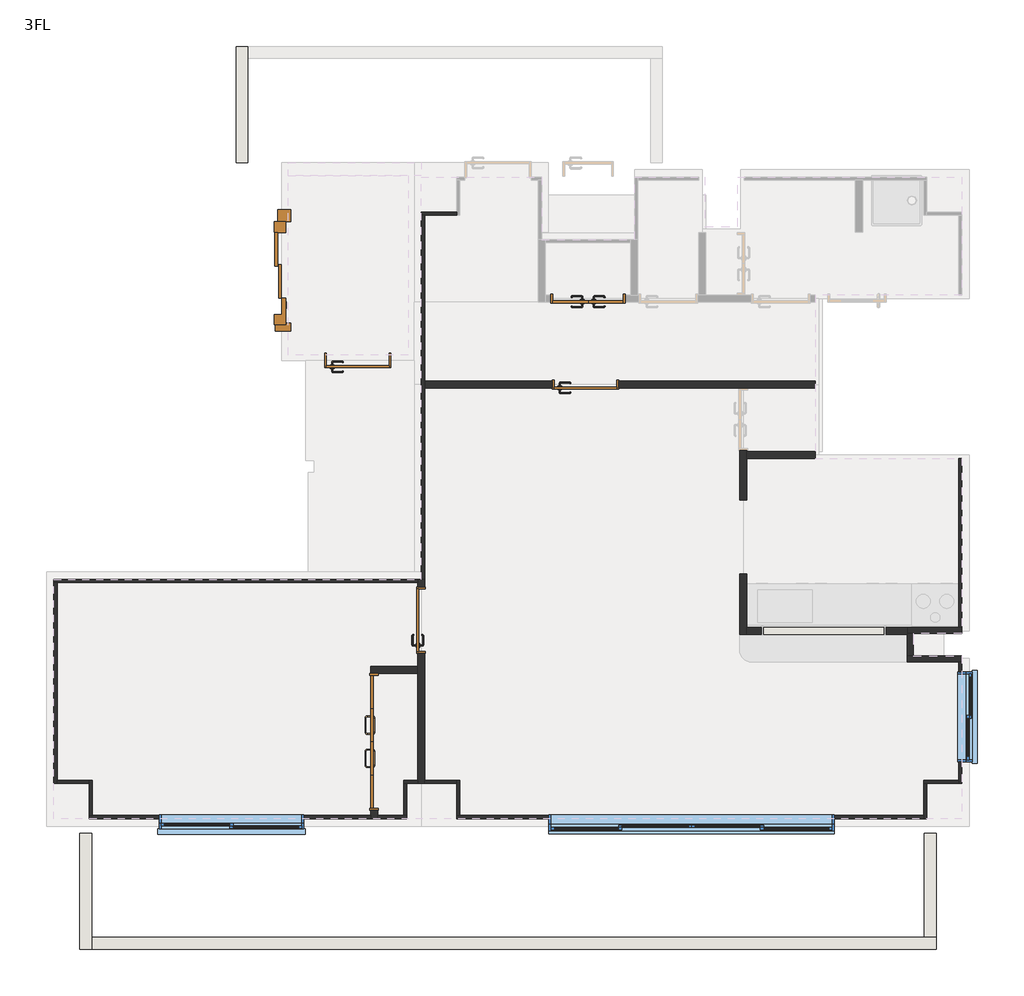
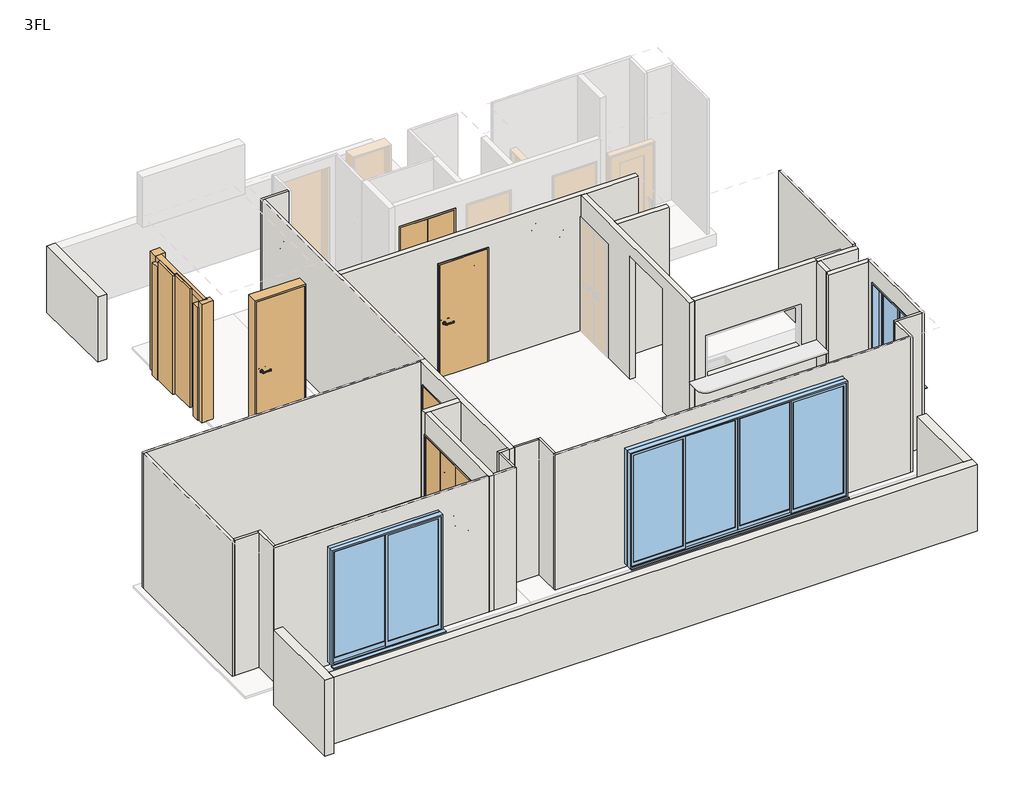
# One storey, part 1 of 2: 31 walls, 6 doors, 3 windows.
"""IFC4 building model written with IfcOpenShell, lengths in millimetres."""

from ifc_helpers import new_model, si_unit, frame, origin, place, context, project, spatial, polyline, outline, extrude, faceted_brep, transform, mapped, element, save
from components import door_6b3f1a68, w750h2000_bb28a540, w900h2000_3836acd8, w1700h2000_548ce087, w800h2000_55112f04, w800h2000_ceb0a9b1, w800h2200_4894828d, w1100h1200_8d7c9efa, w1800h2000_a859420f, w3600_h2000_fd93b6f9

model = new_model("IFC4")

# Units and contexts
model_context = context("Model", 3, world=origin())
ifc_project = project(units=[si_unit("LENGTHUNIT", "METRE", prefix="MILLI")], contexts=[model_context])

# Site, building, storey
site = spatial("IfcSite", under=ifc_project)
building = spatial("IfcBuilding", under=site)
storey = spatial("IfcBuildingStorey", under=building, Name="3FL", Elevation=6275.0)

# Doors
placement = place(None, origin())
door_shape = door_6b3f1a68(model_context)
element("IfcDoor", 1, ObjectType="エレベータ住宅用ドア - トランク付 : 9 人乗", at=placement, inside=storey, context=model_context, shape_type="MappedRepresentation", body=[
    mapped(door_shape, transform((-699.2658988, 2143.6001516, 6275.0), x_axis=(0.0, 1.0, 0.0), y_axis=(-1.0, 0.0, 0.0), z_axis=(0.0, 0.0, 1.0))),
])
w750h2000_shape = w750h2000_bb28a540(model_context)
w900h2000_shape = w900h2000_3836acd8(model_context)
element("IfcDoor", 2, ObjectType="両開き : W900H2000", at=placement, inside=storey, context=model_context, shape_type="MappedRepresentation", body=[
    mapped(w750h2000_shape, transform((3218.2341012, 1823.6001516, 6275.0), x_axis=(-1.0, 0.0, 0.0), y_axis=(0.0, -1.0, 0.0), z_axis=(0.0, 0.0, 1.0))),
    mapped(w900h2000_shape, transform((3218.2341012, 1823.6001516, 6275.0), x_axis=(-1.0, 0.0, 0.0), y_axis=(0.0, -1.0, 0.0), z_axis=(0.0, 0.0, 1.0))),
])
w1700h2000_shape = w1700h2000_548ce087(model_context)
element("IfcDoor", 3, ObjectType="木製折戸 : w1700h2000", at=placement, inside=storey, context=model_context, shape_type="MappedRepresentation", body=[
    mapped(w1700h2000_shape, transform((483.2341012, -3846.3998484, 6275.0), x_axis=(0.0, 1.0, 0.0), y_axis=(-1.0, 0.0, 0.0), z_axis=(0.0, 0.0, 1.0))),
])
w800h2000_shape = w800h2000_55112f04(model_context)
element("IfcDoor", 4, ObjectType="片開き : w800h2000", at=placement, inside=storey, context=model_context, shape_type="MappedRepresentation", body=[
    mapped(w800h2000_shape, transform((3183.2341012, 723.6001516, 6275.0), x_axis=(1.0, 0.0, 0.0), y_axis=(0.0, 1.0, 0.0), z_axis=(0.0, 0.0, 1.0))),
])
w800h2000_2_shape = w800h2000_ceb0a9b1(model_context)
element("IfcDoor", 5, ObjectType="片開き : w800h2000", at=placement, inside=storey, context=model_context, shape_type="MappedRepresentation", body=[
    mapped(w800h2000_2_shape, transform((1083.2341012, -2291.3998484, 6275.0), x_axis=(0.0, 1.0, 0.0), y_axis=(-1.0, 0.0, 0.0), z_axis=(0.0, 0.0, 1.0))),
])
w800h2200_shape = w800h2200_4894828d(model_context)
element("IfcDoor", 6, ObjectType="片開き : w800h2200", at=placement, inside=storey, context=model_context, shape_type="MappedRepresentation", body=[
    mapped(w800h2200_shape, transform((273.2341012, 1031.1001516, 6275.0), x_axis=(1.0, 0.0, 0.0), y_axis=(0.0, 1.0, 0.0), z_axis=(0.0, 0.0, 1.0))),
])

# Walls
element("IfcWall", 7, ObjectType="標準-120mm+15mm+15mm", at=placement, inside=storey, context=model_context, shape_type="Brep", body=[
    faceted_brep([(-1281.7658988, 3563.6001516, 7375.0), (-1281.7658988, 5048.6001516, 7375.0), (-1281.7658988, 5048.6001516, 6195.0), (-1281.7658988, 3563.6001516, 6225.0), (-1131.7658988, 5048.6001516, 7375.0), (-1131.7658988, 4898.6001516, 7375.0), (-1131.7658988, 3563.6001516, 7375.0), (-1131.7658988, 3563.6001516, 6225.0), (-1131.7658988, 4898.6001516, 6198.030303), (-1131.7658988, 5048.6001516, 6195.0)], [[[0, 1, 2, 3]], [[4, 5, 6, 7, 8, 9]], [[1, 0, 6, 5, 4]], [[1, 4, 9, 2]], [[6, 0, 3, 7]], [[3, 2, 9, 8, 7]]]),
])
element("IfcWall", 8, ObjectType="標準-120mm+15mm+15mm", at=placement, inside=storey, context=model_context, shape_type="Brep", body=[
    faceted_brep([(-3281.7658988, -5016.3998484, 7375.0), (-3281.7658988, -5016.3998484, 6030.0), (-3281.7658988, -6501.3998484, 6030.0), (-3281.7658988, -6501.3998484, 7375.0), (-3131.7658988, -5016.3998484, 6030.0), (-3131.7658988, -5016.3998484, 7375.0), (-3131.7658988, -6351.3998484, 7375.0), (-3131.7658988, -6501.3998484, 7375.0), (-3131.7658988, -6501.3998484, 6030.0), (-3131.7658988, -6351.3998484, 6030.0)], [[[0, 1, 2, 3]], [[4, 5, 6, 7, 8, 9]], [[2, 1, 4, 9, 8]], [[0, 3, 7, 6, 5]], [[3, 2, 8, 7]], [[0, 5, 4, 1]]]),
])
element("IfcWall", 9, ObjectType="標準-120mm+15mm+15mm", at=placement, inside=storey, context=model_context, shape_type="Brep", body=[
    faceted_brep([(7668.2341012, -6501.3998484, 7375.0), (-3131.7658988, -6501.3998484, 7375.0), (-3131.7658988, -6501.3998484, 6195.0), (7668.2341012, -6501.3998484, 6195.0), (-3131.7658988, -6351.3998484, 7375.0), (7518.2341012, -6351.3998484, 7375.0), (7668.2341012, -6351.3998484, 7375.0), (7668.2341012, -6351.3998484, 6198.030303), (-3131.7658988, -6351.3998484, 6198.030303)], [[[0, 1, 2, 3]], [[4, 5, 6, 7, 8]], [[1, 0, 6, 5, 4]], [[1, 4, 8, 2]], [[6, 0, 3, 7]], [[3, 2, 8, 7]]]),
])
element("IfcWall", 10, ObjectType="標準-120mm+15mm+15mm", at=placement, inside=storey, context=model_context, shape_type="SweptSolid", body=[
    extrude(outline(polyline([(-6351.3998484, 7375.0), (-5016.3998484, 7375.0), (-5016.3998484, 6225.0), (-6351.3998484, 6198.030303), (-6351.3998484, 7375.0)])), frame((7518.2341012, 0.0, 0.0), z_axis=(1.0, 0.0, 0.0), x_axis=(0.0, 1.0, 0.0)), (0.0, 0.0, 1.0), 150.0),
])
element("IfcWall", 11, ObjectType="標準\u300065ｍｍ+12.5mm", at=placement, inside=storey, context=model_context, shape_type="Brep", body=[
    faceted_brep([(7998.2341012, -2748.8998484, 6240.0), (7375.7341012, -2748.8998484, 6240.0), (7298.2341012, -2748.8998484, 6240.0), (7298.2341012, -2748.8998484, 8640.0), (7375.7341012, -2748.8998484, 8640.0), (7998.2341012, -2748.8998484, 8640.0), (7998.2341012, -2826.3998484, 6240.0), (7998.2341012, -2826.3998484, 6275.0), (7998.2341012, -2826.3998484, 8640.0), (7298.2341012, -2826.3998484, 8640.0), (7298.2341012, -2826.3998484, 6240.0)], [[[0, 1, 2, 3, 4, 5]], [[6, 7, 8, 9, 10]], [[2, 1, 0, 6, 10]], [[5, 4, 3, 9, 8]], [[0, 5, 8, 7, 6]], [[3, 2, 10, 9]]]),
])
element("IfcWall", 12, ObjectType="標準\u300065ｍｍ+12.5mm", at=placement, inside=storey, context=model_context, shape_type="SweptSolid", body=[
    extrude(outline(polyline([(7375.7341012, -2458.8998484), (7375.7341012, -2748.8998484), (7298.2341012, -2748.8998484), (7298.2341012, -2458.8998484), (7375.7341012, -2458.8998484)])), frame((0.0, 0.0, 6240.0), z_axis=(0.0, 0.0, 1.0), x_axis=(1.0, 0.0, 0.0)), (0.0, 0.0, 1.0), 2400.0),
])
element("IfcWall", 13, ObjectType="標準-12.5mm+65ｍｍ+12.5mm", at=placement, inside=storey, context=model_context, shape_type="Brep", body=[
    faceted_brep([(5248.2341012, -2471.3998484, 6275.0), (7298.2341012, -2471.3998484, 6275.0), (7298.2341012, -2471.3998484, 8675.0), (5248.2341012, -2471.3998484, 8675.0), (7033.2341012, -2471.3998484, 8000.0), (7033.2341012, -2471.3998484, 7275.0), (5433.2341012, -2471.3998484, 7275.0), (5433.2341012, -2471.3998484, 8000.0), (5248.2341012, -2381.3998484, 6275.0), (5248.2341012, -2381.3998484, 8675.0), (7298.2341012, -2381.3998484, 8675.0), (7298.2341012, -2381.3998484, 8640.0), (7298.2341012, -2381.3998484, 6275.0), (7033.2341012, -2381.3998484, 8000.0), (5433.2341012, -2381.3998484, 8000.0), (5433.2341012, -2381.3998484, 7275.0), (7033.2341012, -2381.3998484, 7275.0)], [[[0, 1, 2, 3], [4, 5, 6, 7]], [[8, 9, 10, 11, 12], [13, 14, 15, 16]], [[1, 0, 8, 12]], [[3, 2, 10, 9]], [[0, 3, 9, 8]], [[2, 1, 12, 11, 10]], [[5, 4, 13, 16]], [[6, 5, 16, 15]], [[7, 6, 15, 14]], [[4, 7, 14, 13]]]),
])
element("IfcWall", 14, ObjectType="標準-12.5mm+65ｍｍ+12.5mm", at=placement, inside=storey, context=model_context, shape_type="Brep", body=[
    faceted_brep([(1128.2341012, -1771.3998484, 6275.0), (1128.2341012, -1771.3998484, 8675.0), (1128.2341012, -4341.3998484, 8675.0), (1128.2341012, -4381.3998484, 8675.0), (1128.2341012, -4381.3998484, 6275.0), (1128.2341012, -4341.3998484, 6275.0), (1128.2341012, -2716.3998484, 6275.0), (1128.2341012, -2716.3998484, 8300.0), (1128.2341012, -1866.3998484, 8300.0), (1128.2341012, -1866.3998484, 6275.0), (1038.2341012, -1771.3998484, 8675.0), (1038.2341012, -1771.3998484, 6275.0), (1038.2341012, -1811.3998484, 6275.0), (1038.2341012, -1866.3998484, 6275.0), (1038.2341012, -1866.3998484, 8300.0), (1038.2341012, -2716.3998484, 8300.0), (1038.2341012, -2716.3998484, 6275.0), (1038.2341012, -2881.3998484, 6275.0), (1038.2341012, -2971.3998484, 6275.0), (1038.2341012, -4341.3998484, 6275.0), (1038.2341012, -4381.3998484, 6275.0), (1038.2341012, -4381.3998484, 8675.0), (1038.2341012, -4341.3998484, 8675.0), (1038.2341012, -2971.3998484, 8675.0), (1038.2341012, -2881.3998484, 8675.0), (1038.2341012, -1811.3998484, 8675.0), (1088.2341012, -1771.3998484, 6275.0), (1115.7341012, -1771.3998484, 6275.0), (1088.2341012, -1771.3998484, 8675.0)], [[[0, 1, 2, 3, 4, 5, 6, 7, 8, 9]], [[10, 11, 12, 13, 14, 15, 16, 17, 18, 19, 20, 21, 22, 23, 24, 25]], [[4, 20, 19, 18, 17, 16, 6, 5]], [[11, 26, 27, 0, 9, 13, 12]], [[1, 0, 27, 26, 11, 10, 28]], [[3, 2, 1, 28, 10, 25, 24, 23, 22, 21]], [[4, 3, 21, 20]], [[15, 7, 6, 16]], [[7, 15, 14, 8]], [[8, 14, 13, 9]]]),
])
element("IfcWall", 15, ObjectType="標準-12.5mm+65ｍｍ+12.5mm", at=placement, inside=storey, context=model_context, shape_type="Brep", body=[
    faceted_brep([(1038.2341012, -2881.3998484, 6275.0), (438.2341012, -2881.3998484, 6275.0), (438.2341012, -2881.3998484, 8675.0), (1038.2341012, -2881.3998484, 8675.0), (1038.2341012, -2971.3998484, 6275.0), (1038.2341012, -2971.3998484, 8675.0), (528.2341012, -2971.3998484, 8675.0), (438.2341012, -2971.3998484, 8675.0), (438.2341012, -2971.3998484, 8300.0), (438.2341012, -2971.3998484, 6275.0)], [[[0, 1, 2, 3]], [[4, 5, 6, 7, 8, 9]], [[1, 0, 4, 9]], [[3, 2, 7, 6, 5]], [[0, 3, 5, 4]], [[2, 1, 9, 8, 7]]]),
])
element("IfcWall", 16, ObjectType="標準-12.5mm+65ｍｍ+12.5mm", at=placement, inside=storey, context=model_context, shape_type="Brep", body=[
    faceted_brep([(438.2341012, -4831.3998484, 6275.0), (438.2341012, -4831.3998484, 8675.0), (438.2341012, -4791.3998484, 8675.0), (438.2341012, -2971.3998484, 8675.0), (438.2341012, -2971.3998484, 8300.0), (438.2341012, -4721.3998484, 8300.0), (438.2341012, -4721.3998484, 6275.0), (438.2341012, -4791.3998484, 6275.0), (528.2341012, -4831.3998484, 8675.0), (528.2341012, -4831.3998484, 6275.0), (528.2341012, -4791.3998484, 6275.0), (528.2341012, -4721.3998484, 6275.0), (528.2341012, -4721.3998484, 8300.0), (528.2341012, -2971.3998484, 8300.0), (528.2341012, -2971.3998484, 8675.0), (528.2341012, -4791.3998484, 8675.0)], [[[0, 1, 2, 3, 4, 5, 6, 7]], [[8, 9, 10, 11, 12, 13, 14, 15]], [[9, 0, 7, 6, 11, 10]], [[1, 0, 9, 8]], [[3, 2, 1, 8, 15, 14]], [[3, 14, 13, 4]], [[5, 12, 11, 6]], [[12, 5, 4, 13]]]),
])
element("IfcWall", 17, ObjectType="標準-12.5mm+65ｍｍ+12.5mm", at=placement, inside=storey, context=model_context, shape_type="Brep", body=[
    faceted_brep([(5248.2341012, -221.3998484, 6275.0), (6123.2341012, -221.3998484, 6275.0), (6123.2341012, -221.3998484, 8675.0), (5248.2341012, -221.3998484, 8675.0), (5248.2341012, -131.3998484, 6275.0), (5248.2341012, -131.3998484, 8675.0), (6123.2341012, -131.3998484, 8675.0), (6123.2341012, -131.3998484, 6275.0), (6123.2341012, -176.3998484, 6275.0)], [[[0, 1, 2, 3]], [[4, 5, 6, 7]], [[1, 0, 4, 7, 8]], [[3, 2, 6, 5]], [[0, 3, 5, 4]], [[2, 1, 8, 7, 6]]]),
])
element("IfcWall", 18, ObjectType="標準-12.5mm+65ｍｍ+12.5mm", at=placement, inside=storey, context=model_context, shape_type="Brep", body=[
    faceted_brep([(6123.2341012, 768.6001516, 8675.0), (6123.2341012, 768.6001516, 6275.0), (3608.2341012, 768.6001516, 6275.0), (3608.2341012, 768.6001516, 8300.0), (2758.2341012, 768.6001516, 8300.0), (2758.2341012, 768.6001516, 6275.0), (1128.2341012, 768.6001516, 6275.0), (1128.2341012, 768.6001516, 8675.0), (6123.2341012, 678.6001516, 6275.0), (6123.2341012, 678.6001516, 8675.0), (5248.2341012, 678.6001516, 8675.0), (5158.2341012, 678.6001516, 8675.0), (1128.2341012, 678.6001516, 8675.0), (1128.2341012, 678.6001516, 6275.0), (2758.2341012, 678.6001516, 6275.0), (2758.2341012, 678.6001516, 8300.0), (3608.2341012, 678.6001516, 8300.0), (3608.2341012, 678.6001516, 6275.0), (6123.2341012, 723.6001516, 6275.0)], [[[0, 1, 2, 3, 4, 5, 6, 7]], [[8, 9, 10, 11, 12, 13, 14, 15, 16, 17]], [[1, 18, 8, 17, 2]], [[5, 14, 13, 6]], [[9, 0, 7, 12, 11, 10]], [[1, 0, 9, 8, 18]], [[7, 6, 13, 12]], [[16, 3, 2, 17]], [[4, 15, 14, 5]], [[3, 16, 15, 4]]]),
])
element("IfcWall", 19, ObjectType="標準-12.5mm+65ｍｍ+12.5mm", at=placement, inside=storey, context=model_context, shape_type="Brep", body=[
    faceted_brep([(5158.2341012, -2471.3998484, 8675.0), (5158.2341012, 678.6001516, 8675.0), (5158.2341012, 678.6001516, 8300.0), (5158.2341012, -121.3998484, 8300.0), (5158.2341012, -121.3998484, 6275.0), (5158.2341012, -751.3998484, 6275.0), (5158.2341012, -751.3998484, 8465.0), (5158.2341012, -1701.3998484, 8465.0), (5158.2341012, -1701.3998484, 6275.0), (5158.2341012, -2471.3998484, 6275.0), (5248.2341012, 678.6001516, 8675.0), (5248.2341012, -131.3998484, 8675.0), (5248.2341012, -221.3998484, 8675.0), (5248.2341012, -2381.3998484, 8675.0), (5248.2341012, -2471.3998484, 8675.0), (5248.2341012, -2471.3998484, 6275.0), (5248.2341012, -2381.3998484, 6275.0), (5248.2341012, -1701.3998484, 6275.0), (5248.2341012, -1701.3998484, 8465.0), (5248.2341012, -751.3998484, 8465.0), (5248.2341012, -751.3998484, 6275.0), (5248.2341012, -221.3998484, 6275.0), (5248.2341012, -131.3998484, 6275.0), (5248.2341012, -121.3998484, 6275.0), (5248.2341012, -121.3998484, 8300.0), (5248.2341012, 678.6001516, 8300.0)], [[[0, 1, 2, 3, 4, 5, 6, 7, 8, 9]], [[10, 11, 12, 13, 14, 15, 16, 17, 18, 19, 20, 21, 22, 23, 24, 25]], [[15, 9, 8, 17, 16]], [[4, 23, 22, 21, 20, 5]], [[1, 0, 14, 13, 12, 11, 10]], [[0, 9, 15, 14]], [[1, 10, 25, 2]], [[3, 24, 23, 4]], [[24, 3, 2, 25]], [[7, 18, 17, 8]], [[19, 6, 5, 20]], [[18, 7, 6, 19]]]),
])
element("IfcWall", 20, ObjectType="標準\u300065ｍｍ+12.5mm", at=placement, inside=storey, context=model_context, shape_type="Brep", body=[
    faceted_brep([(7298.2341012, -2458.8998484, 8640.0), (7298.2341012, -2458.8998484, 6240.0), (7375.7341012, -2458.8998484, 6240.0), (7998.2341012, -2458.8998484, 6240.0), (7998.2341012, -2458.8998484, 8640.0), (7375.7341012, -2458.8998484, 8640.0), (7298.2341012, -2381.3998484, 6240.0), (7298.2341012, -2381.3998484, 6275.0), (7298.2341012, -2381.3998484, 8640.0), (7998.2341012, -2381.3998484, 8640.0), (7998.2341012, -2381.3998484, 6275.0), (7998.2341012, -2381.3998484, 6240.0)], [[[0, 1, 2, 3, 4, 5]], [[6, 7, 8, 9, 10, 11]], [[3, 2, 1, 6, 11]], [[4, 3, 11, 10, 9]], [[0, 5, 4, 9, 8]], [[0, 8, 7, 6, 1]]]),
])
element("IfcWall", 21, ObjectType="内壁-27.5mm+12.5", at=placement, inside=storey, context=model_context, shape_type="Brep", body=[
    faceted_brep([(-3611.7658988, -1811.3998484, 6275.0), (-3571.7658988, -1811.3998484, 6275.0), (1038.2341012, -1811.3998484, 6275.0), (1038.2341012, -1811.3998484, 8675.0), (-3571.7658988, -1811.3998484, 8675.0), (-3611.7658988, -1811.3998484, 8675.0), (-3611.7658988, -1771.3998484, 6275.0), (-3611.7658988, -1771.3998484, 8675.0), (1038.2341012, -1771.3998484, 8675.0), (1038.2341012, -1771.3998484, 6275.0), (-3611.7658988, -1798.8998484, 6275.0), (1038.2341012, -1798.8998484, 6275.0)], [[[0, 1, 2, 3, 4, 5]], [[6, 7, 8, 9]], [[5, 4, 3, 8, 7]], [[2, 1, 0, 10, 11]], [[3, 2, 11, 9, 8]], [[0, 5, 7, 6, 10]], [[10, 6, 9, 11]]]),
])
element("IfcWall", 22, ObjectType="内壁-27.5mm+12.5", at=placement, inside=storey, context=model_context, shape_type="Brep", body=[
    faceted_brep([(-3571.7658988, -4381.3998484, 6275.0), (-3571.7658988, -4341.3998484, 6275.0), (-3571.7658988, -1811.3998484, 6275.0), (-3571.7658988, -1811.3998484, 8675.0), (-3571.7658988, -4341.3998484, 8675.0), (-3571.7658988, -4381.3998484, 8675.0), (-3611.7658988, -4381.3998484, 6275.0), (-3611.7658988, -4381.3998484, 8675.0), (-3611.7658988, -1811.3998484, 8675.0), (-3611.7658988, -1811.3998484, 6275.0), (-3584.2658988, -4381.3998484, 6275.0), (-3584.2658988, -1811.3998484, 6275.0)], [[[0, 1, 2, 3, 4, 5]], [[6, 7, 8, 9]], [[5, 4, 3, 8, 7]], [[2, 1, 0, 10, 11]], [[3, 2, 11, 9, 8]], [[0, 5, 7, 6, 10]], [[10, 6, 9, 11]]]),
])
element("IfcWall", 23, ObjectType="内壁-27.5mm+12.5", at=placement, inside=storey, context=model_context, shape_type="Brep", body=[
    faceted_brep([(438.2341012, -4791.3998484, 6275.0), (-3121.7658988, -4791.3998484, 6275.0), (-3161.7658988, -4791.3998484, 6275.0), (-3161.7658988, -4791.3998484, 8675.0), (-3121.7658988, -4791.3998484, 8675.0), (438.2341012, -4791.3998484, 8675.0), (-2266.7658988, -4791.3998484, 8385.0), (-2266.7658988, -4791.3998484, 6335.0), (-416.7658988, -4791.3998484, 6335.0), (-416.7658988, -4791.3998484, 8385.0), (438.2341012, -4831.3998484, 6275.0), (438.2341012, -4831.3998484, 8675.0), (-3161.7658988, -4831.3998484, 8675.0), (-3161.7658988, -4831.3998484, 6275.0), (-2266.7658988, -4831.3998484, 8385.0), (-416.7658988, -4831.3998484, 8385.0), (-416.7658988, -4831.3998484, 6335.0), (-2266.7658988, -4831.3998484, 6335.0), (438.2341012, -4803.8998484, 6275.0), (-3161.7658988, -4803.8998484, 6275.0)], [[[0, 1, 2, 3, 4, 5], [6, 7, 8, 9]], [[10, 11, 12, 13], [14, 15, 16, 17]], [[5, 4, 3, 12, 11]], [[2, 1, 0, 18, 19]], [[0, 5, 11, 10, 18]], [[18, 10, 13, 19]], [[7, 6, 14, 17]], [[8, 7, 17, 16]], [[9, 8, 16, 15]], [[6, 9, 15, 14]], [[3, 2, 19, 13, 12]]]),
])
element("IfcWall", 24, ObjectType="内壁-27.5mm+12.5", at=placement, inside=storey, context=model_context, shape_type="Brep", body=[
    faceted_brep([(898.2341012, -4791.3998484, 6275.0), (858.2341012, -4791.3998484, 6275.0), (528.2341012, -4791.3998484, 6275.0), (528.2341012, -4791.3998484, 8675.0), (858.2341012, -4791.3998484, 8675.0), (898.2341012, -4791.3998484, 8675.0), (898.2341012, -4831.3998484, 6275.0), (898.2341012, -4831.3998484, 8675.0), (528.2341012, -4831.3998484, 8675.0), (528.2341012, -4831.3998484, 6275.0), (898.2341012, -4803.8998484, 6275.0), (528.2341012, -4803.8998484, 6275.0)], [[[0, 1, 2, 3, 4, 5]], [[6, 7, 8, 9]], [[5, 4, 3, 8, 7]], [[2, 1, 0, 10, 11]], [[3, 2, 11, 9, 8]], [[0, 5, 7, 6, 10]], [[10, 6, 9, 11]]]),
])
element("IfcWall", 25, ObjectType="内壁-27.5mm+12.5", at=placement, inside=storey, context=model_context, shape_type="Brep", body=[
    faceted_brep([(1038.2341012, -4341.3998484, 6275.0), (858.2341012, -4341.3998484, 6275.0), (858.2341012, -4341.3998484, 8675.0), (1038.2341012, -4341.3998484, 8675.0), (1038.2341012, -4381.3998484, 6275.0), (1038.2341012, -4381.3998484, 8675.0), (898.2341012, -4381.3998484, 8675.0), (858.2341012, -4381.3998484, 8675.0), (858.2341012, -4381.3998484, 6275.0), (898.2341012, -4381.3998484, 6275.0), (1038.2341012, -4353.8998484, 6275.0), (858.2341012, -4353.8998484, 6275.0)], [[[0, 1, 2, 3]], [[4, 5, 6, 7, 8, 9]], [[3, 2, 7, 6, 5]], [[1, 0, 10, 11]], [[0, 3, 5, 4, 10]], [[10, 4, 9, 8, 11]], [[2, 1, 11, 8, 7]]]),
])
element("IfcWall", 26, ObjectType="内壁-27.5mm+12.5", at=placement, inside=storey, context=model_context, shape_type="SweptSolid", body=[
    extrude(outline(polyline([(8675.0, 858.2341012), (6275.0, 858.2341012), (6275.0, 870.7341012), (6275.0, 898.2341012), (8675.0, 898.2341012), (8675.0, 858.2341012)])), frame((0.0, -4791.3998484, 0.0), z_axis=(0.0, 1.0, 0.0), x_axis=(0.0, 0.0, 1.0)), (0.0, 0.0, 1.0), 410.0),
])
element("IfcWall", 27, ObjectType="内壁-27.5mm+12.5", at=placement, inside=storey, context=model_context, shape_type="Brep", body=[
    faceted_brep([(1088.2341012, 2888.6001516, 6275.0), (1128.2341012, 2888.6001516, 6275.0), (1538.2341012, 2888.6001516, 6275.0), (1538.2341012, 2888.6001516, 8675.0), (1128.2341012, 2888.6001516, 8675.0), (1088.2341012, 2888.6001516, 8675.0), (1088.2341012, 2928.6001516, 6275.0), (1088.2341012, 2928.6001516, 8675.0), (1538.2341012, 2928.6001516, 8675.0), (1538.2341012, 2928.6001516, 6275.0), (1088.2341012, 2901.1001516, 6275.0), (1538.2341012, 2901.1001516, 6275.0)], [[[0, 1, 2, 3, 4, 5]], [[6, 7, 8, 9]], [[5, 4, 3, 8, 7]], [[2, 1, 0, 10, 11]], [[3, 2, 11, 9, 8]], [[0, 5, 7, 6, 10]], [[10, 6, 9, 11]]]),
])
element("IfcWall", 28, ObjectType="内壁-27.5mm+12.5", at=placement, inside=storey, context=model_context, shape_type="Brep", body=[
    faceted_brep([(1128.2341012, -1771.3998484, 6275.0), (1128.2341012, 678.6001516, 6275.0), (1128.2341012, 768.6001516, 6275.0), (1128.2341012, 2888.6001516, 6275.0), (1128.2341012, 2888.6001516, 8675.0), (1128.2341012, 768.6001516, 8675.0), (1128.2341012, 678.6001516, 8675.0), (1128.2341012, -1771.3998484, 8675.0), (1088.2341012, -1771.3998484, 6275.0), (1088.2341012, -1771.3998484, 8675.0), (1088.2341012, 2888.6001516, 8675.0), (1088.2341012, 2888.6001516, 6275.0), (1115.7341012, -1771.3998484, 6275.0), (1115.7341012, 2888.6001516, 6275.0)], [[[0, 1, 2, 3, 4, 5, 6, 7]], [[8, 9, 10, 11]], [[7, 6, 5, 4, 10, 9]], [[0, 7, 9, 8, 12]], [[3, 2, 1, 0, 12, 13]], [[12, 8, 11, 13]], [[4, 3, 13, 11, 10]]]),
])
element("IfcWall", 29, ObjectType="内壁-27.5mm+12.5", at=placement, inside=storey, context=model_context, shape_type="Brep", body=[
    faceted_brep([(7958.2341012, -221.3998484, 6275.0), (7958.2341012, -2381.3998484, 6275.0), (7958.2341012, -2381.3998484, 8675.0), (7958.2341012, -221.3998484, 8675.0), (7998.2341012, -221.3998484, 6275.0), (7998.2341012, -221.3998484, 8675.0), (7998.2341012, -2381.3998484, 8675.0), (7998.2341012, -2381.3998484, 8640.0), (7998.2341012, -2381.3998484, 6275.0), (7970.7341012, -221.3998484, 6275.0), (7970.7341012, -2381.3998484, 6275.0)], [[[0, 1, 2, 3]], [[4, 5, 6, 7, 8]], [[3, 2, 6, 5]], [[1, 0, 9, 10]], [[2, 1, 10, 8, 7, 6]], [[0, 3, 5, 4, 9]], [[9, 4, 8, 10]]]),
])
element("IfcWall", 30, ObjectType="内壁-27.5mm+12.5", at=placement, inside=storey, context=model_context, shape_type="Brep", body=[
    faceted_brep([(7958.2341012, -2826.3998484, 6275.0), (7958.2341012, -4341.3998484, 6275.0), (7958.2341012, -4381.3998484, 6275.0), (7958.2341012, -4381.3998484, 8675.0), (7958.2341012, -4341.3998484, 8675.0), (7958.2341012, -2826.3998484, 8675.0), (7958.2341012, -4101.3998484, 8350.0), (7958.2341012, -4101.3998484, 7100.0), (7958.2341012, -2951.3998484, 7100.0), (7958.2341012, -2951.3998484, 8350.0), (7998.2341012, -2826.3998484, 6275.0), (7998.2341012, -2826.3998484, 8640.0), (7998.2341012, -2826.3998484, 8675.0), (7998.2341012, -4381.3998484, 8675.0), (7998.2341012, -4381.3998484, 6275.0), (7998.2341012, -4101.3998484, 8350.0), (7998.2341012, -2951.3998484, 8350.0), (7998.2341012, -2951.3998484, 7100.0), (7998.2341012, -4101.3998484, 7100.0), (7970.7341012, -2826.3998484, 6275.0), (7970.7341012, -4381.3998484, 6275.0)], [[[0, 1, 2, 3, 4, 5], [6, 7, 8, 9]], [[10, 11, 12, 13, 14], [15, 16, 17, 18]], [[5, 4, 3, 13, 12]], [[2, 1, 0, 19, 20]], [[0, 5, 12, 11, 10, 19]], [[19, 10, 14, 20]], [[3, 2, 20, 14, 13]], [[7, 6, 15, 18]], [[8, 7, 18, 17]], [[9, 8, 17, 16]], [[6, 9, 16, 15]]]),
])
element("IfcWall", 31, ObjectType="内壁-27.5mm+12.5", at=placement, inside=storey, context=model_context, shape_type="Brep", body=[
    faceted_brep([(7958.2341012, -4341.3998484, 6275.0), (7508.2341012, -4341.3998484, 6275.0), (7508.2341012, -4341.3998484, 8675.0), (7958.2341012, -4341.3998484, 8675.0), (7958.2341012, -4381.3998484, 6275.0), (7958.2341012, -4381.3998484, 8675.0), (7548.2341012, -4381.3998484, 8675.0), (7508.2341012, -4381.3998484, 8675.0), (7508.2341012, -4381.3998484, 6275.0), (7548.2341012, -4381.3998484, 6275.0), (7958.2341012, -4353.8998484, 6275.0), (7508.2341012, -4353.8998484, 6275.0)], [[[0, 1, 2, 3]], [[4, 5, 6, 7, 8, 9]], [[3, 2, 7, 6, 5]], [[1, 0, 10, 11]], [[0, 3, 5, 4, 10]], [[10, 4, 9, 8, 11]], [[2, 1, 11, 8, 7]]]),
])
element("IfcWall", 32, ObjectType="内壁-27.5mm+12.5", at=placement, inside=storey, context=model_context, shape_type="Brep", body=[
    faceted_brep([(7508.2341012, -4381.3998484, 6275.0), (7508.2341012, -4791.3998484, 6275.0), (7508.2341012, -4831.3998484, 6275.0), (7508.2341012, -4831.3998484, 8675.0), (7508.2341012, -4791.3998484, 8675.0), (7508.2341012, -4381.3998484, 8675.0), (7548.2341012, -4381.3998484, 6275.0), (7548.2341012, -4381.3998484, 8675.0), (7548.2341012, -4831.3998484, 8675.0), (7548.2341012, -4831.3998484, 6275.0), (7520.7341012, -4381.3998484, 6275.0), (7520.7341012, -4831.3998484, 6275.0)], [[[0, 1, 2, 3, 4, 5]], [[6, 7, 8, 9]], [[5, 4, 3, 8, 7]], [[2, 1, 0, 10, 11]], [[0, 5, 7, 6, 10]], [[10, 6, 9, 11]], [[3, 2, 11, 9, 8]]]),
])
element("IfcWall", 33, ObjectType="内壁-27.5mm+12.5", at=placement, inside=storey, context=model_context, shape_type="Brep", body=[
    faceted_brep([(7508.2341012, -4791.3998484, 6275.0), (1578.2341012, -4791.3998484, 6275.0), (1538.2341012, -4791.3998484, 6275.0), (1538.2341012, -4791.3998484, 8675.0), (1578.2341012, -4791.3998484, 8675.0), (7508.2341012, -4791.3998484, 8675.0), (6368.2341012, -4791.3998484, 6335.0), (6368.2341012, -4791.3998484, 8385.0), (2718.2341012, -4791.3998484, 8385.0), (2718.2341012, -4791.3998484, 6335.0), (7508.2341012, -4831.3998484, 6275.0), (7508.2341012, -4831.3998484, 8675.0), (1538.2341012, -4831.3998484, 8675.0), (1538.2341012, -4831.3998484, 6275.0), (6368.2341012, -4831.3998484, 6335.0), (2718.2341012, -4831.3998484, 6335.0), (2718.2341012, -4831.3998484, 8385.0), (6368.2341012, -4831.3998484, 8385.0), (7508.2341012, -4803.8998484, 6275.0), (1538.2341012, -4803.8998484, 6275.0)], [[[0, 1, 2, 3, 4, 5], [6, 7, 8, 9]], [[10, 11, 12, 13], [14, 15, 16, 17]], [[5, 4, 3, 12, 11]], [[2, 1, 0, 18, 19]], [[0, 5, 11, 10, 18]], [[18, 10, 13, 19]], [[3, 2, 19, 13, 12]], [[7, 6, 14, 17]], [[8, 7, 17, 16]], [[9, 8, 16, 15]], [[6, 9, 15, 14]]]),
])
element("IfcWall", 34, ObjectType="内壁-27.5mm+12.5", at=placement, inside=storey, context=model_context, shape_type="Brep", body=[
    faceted_brep([(1578.2341012, -4791.3998484, 6275.0), (1578.2341012, -4341.3998484, 6275.0), (1578.2341012, -4341.3998484, 8675.0), (1578.2341012, -4791.3998484, 8675.0), (1538.2341012, -4791.3998484, 6275.0), (1538.2341012, -4791.3998484, 8675.0), (1538.2341012, -4381.3998484, 8675.0), (1538.2341012, -4341.3998484, 8675.0), (1538.2341012, -4341.3998484, 6275.0), (1538.2341012, -4381.3998484, 6275.0), (1565.7341012, -4791.3998484, 6275.0), (1565.7341012, -4341.3998484, 6275.0)], [[[0, 1, 2, 3]], [[4, 5, 6, 7, 8, 9]], [[3, 2, 7, 6, 5]], [[1, 0, 10, 11]], [[0, 3, 5, 4, 10]], [[10, 4, 9, 8, 11]], [[2, 1, 11, 8, 7]]]),
])
element("IfcWall", 35, ObjectType="内壁-27.5mm+12.5", at=placement, inside=storey, context=model_context, shape_type="SweptSolid", body=[
    extrude(outline(polyline([(-4341.3998484, 8675.0), (-4341.3998484, 6275.0), (-4353.8998484, 6275.0), (-4381.3998484, 6275.0), (-4381.3998484, 8675.0), (-4341.3998484, 8675.0)])), frame((1128.2341012, 0.0, 0.0), z_axis=(1.0, 0.0, 0.0), x_axis=(0.0, 1.0, 0.0)), (0.0, 0.0, 1.0), 410.0),
])
element("IfcWall", 36, ObjectType="内壁-27.5mm+12.5", at=placement, inside=storey, context=model_context, shape_type="Brep", body=[
    faceted_brep([(-3121.7658988, -4791.3998484, 6275.0), (-3121.7658988, -4341.3998484, 6275.0), (-3121.7658988, -4341.3998484, 8675.0), (-3121.7658988, -4791.3998484, 8675.0), (-3161.7658988, -4791.3998484, 6275.0), (-3161.7658988, -4791.3998484, 8675.0), (-3161.7658988, -4381.3998484, 8675.0), (-3161.7658988, -4341.3998484, 8675.0), (-3161.7658988, -4341.3998484, 6275.0), (-3161.7658988, -4381.3998484, 6275.0), (-3134.2658988, -4791.3998484, 6275.0), (-3134.2658988, -4341.3998484, 6275.0)], [[[0, 1, 2, 3]], [[4, 5, 6, 7, 8, 9]], [[3, 2, 7, 6, 5]], [[1, 0, 10, 11]], [[2, 1, 11, 8, 7]], [[0, 3, 5, 4, 10]], [[10, 4, 9, 8, 11]]]),
])
element("IfcWall", 37, ObjectType="内壁-27.5mm+12.5", at=placement, inside=storey, context=model_context, shape_type="SweptSolid", body=[
    extrude(outline(polyline([(-4341.3998484, 8675.0), (-4341.3998484, 6275.0), (-4353.8998484, 6275.0), (-4381.3998484, 6275.0), (-4381.3998484, 8675.0), (-4341.3998484, 8675.0)])), frame((-3571.7658988, 0.0, 0.0), z_axis=(1.0, 0.0, 0.0), x_axis=(0.0, 1.0, 0.0)), (0.0, 0.0, 1.0), 410.0),
])

# Windows
w1100h1200_shape = w1100h1200_8d7c9efa(model_context)
element("IfcWindow", 38, ObjectType="引違い腰窓_2枚 : W1100H1200", at=placement, inside=storey, context=model_context, shape_type="MappedRepresentation", body=[
    mapped(w1100h1200_shape, transform((8090.7341012, -3526.3998484, 6175.0), x_axis=(0.0, -1.0, 0.0), y_axis=(1.0, 0.0, 0.0), z_axis=(0.0, 0.0, 1.0))),
])
w1800h2000_shape = w1800h2000_a859420f(model_context)
element("IfcWindow", 39, ObjectType="引違い掃出窓_2枚 : W1800H2000", at=placement, inside=storey, context=model_context, shape_type="MappedRepresentation", body=[
    mapped(w1800h2000_shape, transform((-1341.7658988, -4923.8998484, 6360.0), x_axis=(-1.0, 0.0, 0.0), y_axis=(0.0, -1.0, 0.0), z_axis=(0.0, 0.0, 1.0))),
])
w3600_h2000_shape = w3600_h2000_fd93b6f9(model_context)
element("IfcWindow", 40, ObjectType="窓 - 引違い掃出 4 枚 2 溝 - 内付 : w3600 h2000", at=placement, inside=storey, context=model_context, shape_type="MappedRepresentation", body=[
    mapped(w3600_h2000_shape, transform((4543.2341012, -4923.8998484, 6335.0), x_axis=(-1.0, 0.0, 0.0), y_axis=(0.0, -1.0, 0.0), z_axis=(0.0, 0.0, 1.0))),
])

save(model, "model.ifc")
